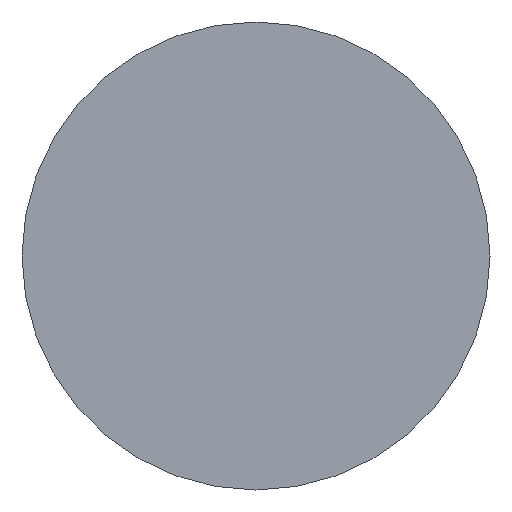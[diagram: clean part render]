
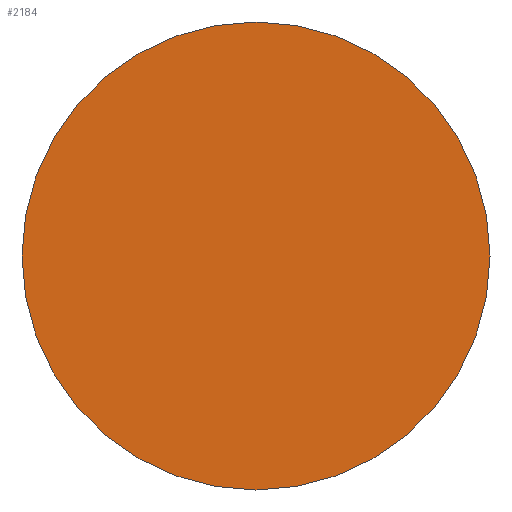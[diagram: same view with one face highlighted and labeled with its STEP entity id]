
A CAD part, front view. The second image highlights one B-rep face of the part: STEP entity #2184.
In plain terms, the highlighted planar face has unit normal (0, -1, 0).
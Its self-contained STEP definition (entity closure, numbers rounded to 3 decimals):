
#872=CARTESIAN_POINT('',(0.,0.,0.));
#873=DIRECTION('',(0.,-1.,0.));
#874=DIRECTION('',(-1.,0.,0.));
#875=AXIS2_PLACEMENT_3D('',#872,#873,#874);
#877=CARTESIAN_POINT('',(0.,0.,0.));
#878=DIRECTION('',(0.,1.,0.));
#879=DIRECTION('',(-1.,0.,0.));
#880=AXIS2_PLACEMENT_3D('',#877,#878,#879);
#882=CARTESIAN_POINT('',(-77.5,0.,0.));
#883=CARTESIAN_POINT('',(77.5,0.,0.));
#884=VERTEX_POINT('',#882);
#885=VERTEX_POINT('',#883);
#2175=CARTESIAN_POINT('',(0.,0.,0.));
#2176=DIRECTION('',(0.,1.,0.));
#2177=DIRECTION('',(1.,0.,0.));
#2178=AXIS2_PLACEMENT_3D('',#2175,#2176,#2177);
#2179=PLANE('',#2178);
#2180=ORIENTED_EDGE('',*,*,#2142,.F.);
#2181=ORIENTED_EDGE('',*,*,#2157,.T.);
#2182=EDGE_LOOP('',(#2180,#2181));
#2183=FACE_OUTER_BOUND('',#2182,.F.);
#2184=ADVANCED_FACE('',(#2183),#2179,.F.);
#876=CIRCLE('',#875,77.5);
#881=CIRCLE('',#880,77.5);
#2142=EDGE_CURVE('',#884,#885,#876,.T.);
#2157=EDGE_CURVE('',#884,#885,#881,.T.);
